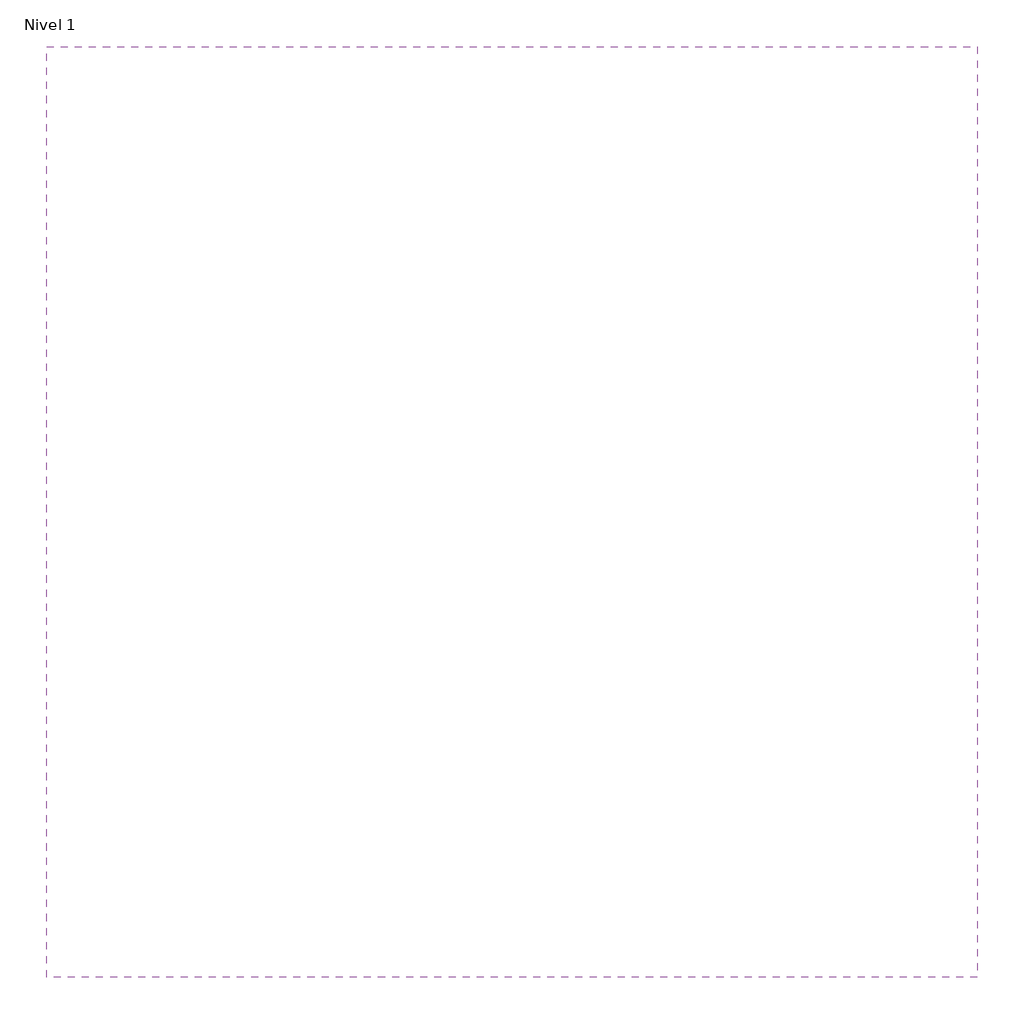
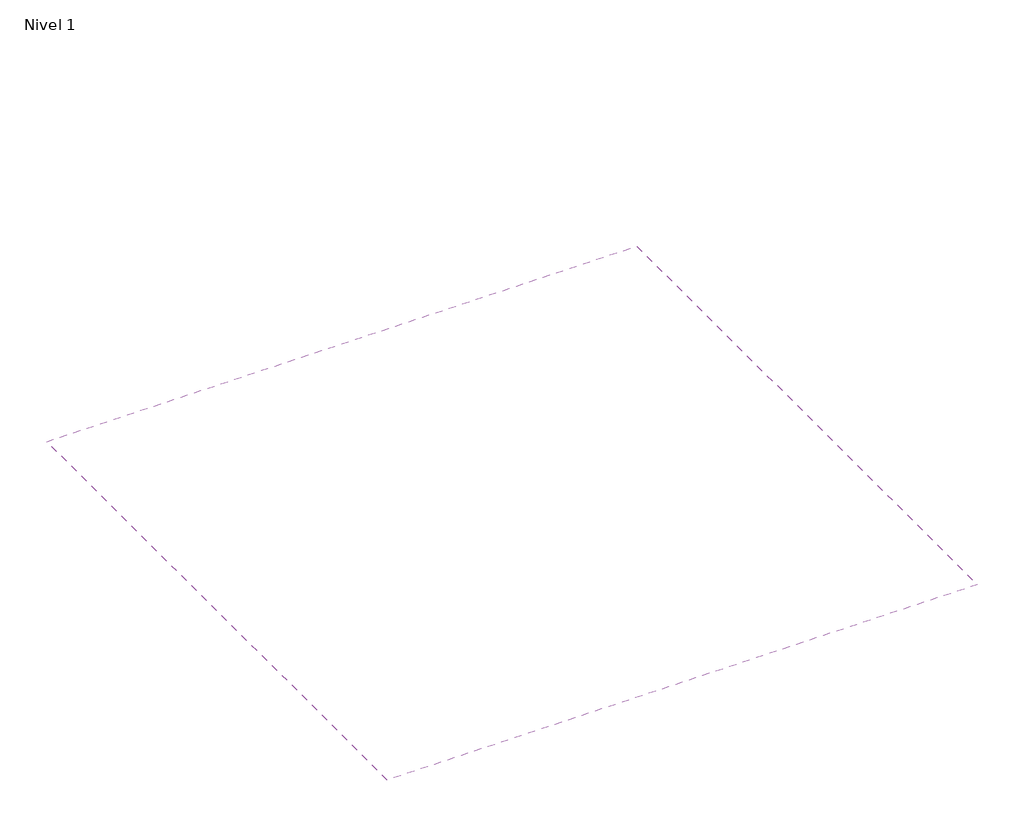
# One storey: 1 covering.
"""IFC4 building model written with IfcOpenShell, lengths in millimetres."""

from ifc_helpers import new_model, si_unit, frame, origin, place, context, project, spatial, polyline, outline, extrude, element, save

model = new_model("IFC4")

# Units and contexts
model_context = context("Model", 3, world=origin())
ifc_project = project(units=[si_unit("LENGTHUNIT", "METRE", prefix="MILLI")], contexts=[model_context])

# Site, building, storey
site = spatial("IfcSite", under=ifc_project)
building = spatial("IfcBuilding", under=site)
storey = spatial("IfcBuildingStorey", under=building, Name="Nivel 1", Elevation=0.0)

# Covering
placement = place(None, origin())
element("IfcCovering", 1, ObjectType="Cubierta metálica + Yeso", at=placement, inside=storey, context=model_context, shape_type="SweptSolid", body=[
    extrude(outline(polyline([(-2177.4784364, 3679.8615469), (-3177.4784364, 3679.8615469), (-3177.4784364, 4679.8615469), (-2177.4784364, 4679.8615469), (-2177.4784364, 3679.8615469)])), frame((0.0, 0.0, 2600.0), z_axis=(0.0, 0.0, 1.0), x_axis=(1.0, 0.0, 0.0)), (0.0, 0.0, 1.0), 357.5),
])

save(model, "model.ifc")
